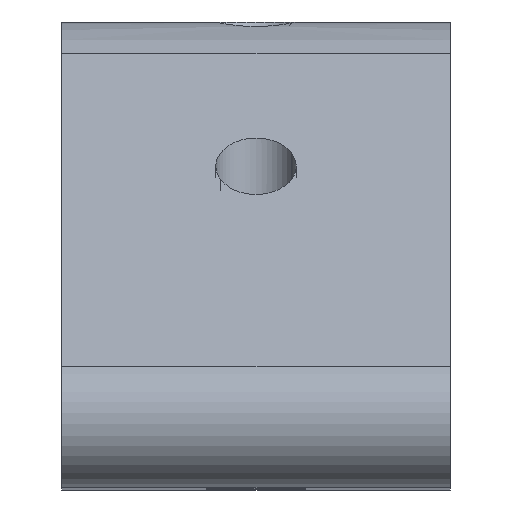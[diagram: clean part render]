
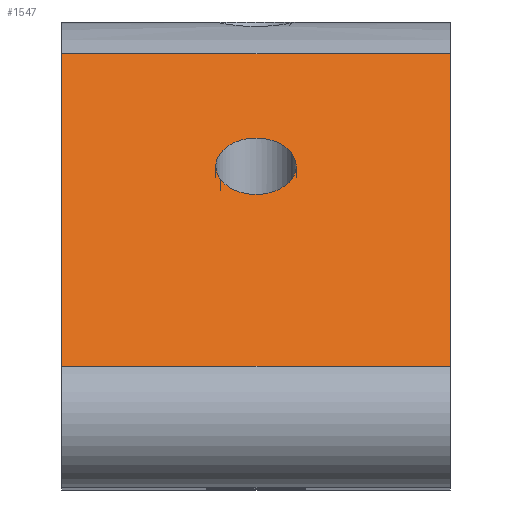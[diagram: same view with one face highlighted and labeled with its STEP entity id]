
A CAD part, top view. The second image highlights one B-rep face of the part: STEP entity #1547.
In plain terms, the highlighted planar face has unit normal (0, 0.818, 0.575).
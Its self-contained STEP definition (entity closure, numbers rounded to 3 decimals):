
#268=CARTESIAN_POINT('Line Origine',(0.,-8.763,201.124)) ;
#272=CARTESIAN_POINT('Vertex',(-10.,-8.763,201.124)) ;
#274=CARTESIAN_POINT('Vertex',(10.,-8.763,201.124)) ;
#299=CARTESIAN_POINT('Line Origine',(-10.,-0.699,189.649)) ;
#303=CARTESIAN_POINT('Vertex',(-10.,7.364,178.174)) ;
#807=CARTESIAN_POINT('Vertex',(10.,7.364,178.174)) ;
#810=CARTESIAN_POINT('Line Origine',(10.,-0.699,189.649)) ;
#1459=CARTESIAN_POINT('Axis2P3D Location',(0.,-8.763,201.124)) ;
#1464=CARTESIAN_POINT('Line Origine',(0.,7.364,178.174)) ;
#1476=CARTESIAN_POINT('Control Point',(1.814,2.251,185.45)) ;
#1477=CARTESIAN_POINT('Control Point',(1.809,2.258,185.44)) ;
#1478=CARTESIAN_POINT('Control Point',(1.804,2.265,185.431)) ;
#1479=CARTESIAN_POINT('Control Point',(1.803,2.266,185.429)) ;
#1480=CARTESIAN_POINT('Control Point',(1.742,2.341,185.322)) ;
#1481=CARTESIAN_POINT('Control Point',(1.672,2.415,185.218)) ;
#1482=CARTESIAN_POINT('Control Point',(1.6,2.481,185.123)) ;
#1483=CARTESIAN_POINT('Control Point',(1.394,2.642,184.894)) ;
#1484=CARTESIAN_POINT('Control Point',(1.14,2.778,184.7)) ;
#1485=CARTESIAN_POINT('Control Point',(0.968,2.85,184.597)) ;
#1486=CARTESIAN_POINT('Control Point',(0.631,2.954,184.45)) ;
#1487=CARTESIAN_POINT('Control Point',(0.26,3.003,184.38)) ;
#1488=CARTESIAN_POINT('Control Point',(0.092,3.013,184.365)) ;
#1489=CARTESIAN_POINT('Control Point',(-0.2,3.01,184.371)) ;
#1490=CARTESIAN_POINT('Control Point',(-0.483,2.971,184.425)) ;
#1491=CARTESIAN_POINT('Control Point',(-0.6,2.949,184.457)) ;
#1492=CARTESIAN_POINT('Control Point',(-0.829,2.892,184.538)) ;
#1493=CARTESIAN_POINT('Control Point',(-1.04,2.815,184.648)) ;
#1494=CARTESIAN_POINT('Control Point',(-1.141,2.771,184.711)) ;
#1495=CARTESIAN_POINT('Control Point',(-1.452,2.612,184.936)) ;
#1496=CARTESIAN_POINT('Control Point',(-1.694,2.416,185.216)) ;
#1497=CARTESIAN_POINT('Control Point',(-1.827,2.267,185.428)) ;
#1498=CARTESIAN_POINT('Control Point',(-2.034,1.936,185.899)) ;
#1499=CARTESIAN_POINT('Control Point',(-2.091,1.585,186.398)) ;
#1500=CARTESIAN_POINT('Control Point',(-2.08,1.399,186.663)) ;
#1501=CARTESIAN_POINT('Control Point',(-2.016,1.177,186.979)) ;
#1502=CARTESIAN_POINT('Control Point',(-1.891,0.966,187.279)) ;
#1503=CARTESIAN_POINT('Control Point',(-1.867,0.93,187.33)) ;
#1504=CARTESIAN_POINT('Control Point',(-1.841,0.894,187.381)) ;
#1505=CARTESIAN_POINT('Control Point',(-1.814,0.859,187.432)) ;
#1506=CARTESIAN_POINT('Vertex',(1.814,2.251,185.45)) ;
#1508=CARTESIAN_POINT('Vertex',(-1.814,0.859,187.432)) ;
#1512=CARTESIAN_POINT('Control Point',(-1.814,0.859,187.432)) ;
#1513=CARTESIAN_POINT('Control Point',(-1.809,0.852,187.441)) ;
#1514=CARTESIAN_POINT('Control Point',(-1.804,0.845,187.451)) ;
#1515=CARTESIAN_POINT('Control Point',(-1.803,0.845,187.452)) ;
#1516=CARTESIAN_POINT('Control Point',(-1.742,0.769,187.56)) ;
#1517=CARTESIAN_POINT('Control Point',(-1.672,0.696,187.664)) ;
#1518=CARTESIAN_POINT('Control Point',(-1.6,0.629,187.758)) ;
#1519=CARTESIAN_POINT('Control Point',(-1.394,0.469,187.987)) ;
#1520=CARTESIAN_POINT('Control Point',(-1.14,0.332,188.182)) ;
#1521=CARTESIAN_POINT('Control Point',(-0.968,0.26,188.284)) ;
#1522=CARTESIAN_POINT('Control Point',(-0.631,0.156,188.431)) ;
#1523=CARTESIAN_POINT('Control Point',(-0.26,0.107,188.502)) ;
#1524=CARTESIAN_POINT('Control Point',(-0.092,0.097,188.516)) ;
#1525=CARTESIAN_POINT('Control Point',(0.2,0.1,188.511)) ;
#1526=CARTESIAN_POINT('Control Point',(0.483,0.139,188.456)) ;
#1527=CARTESIAN_POINT('Control Point',(0.6,0.161,188.424)) ;
#1528=CARTESIAN_POINT('Control Point',(0.829,0.218,188.344)) ;
#1529=CARTESIAN_POINT('Control Point',(1.04,0.295,188.233)) ;
#1530=CARTESIAN_POINT('Control Point',(1.141,0.34,188.17)) ;
#1531=CARTESIAN_POINT('Control Point',(1.452,0.498,187.945)) ;
#1532=CARTESIAN_POINT('Control Point',(1.694,0.695,187.665)) ;
#1533=CARTESIAN_POINT('Control Point',(1.827,0.844,187.453)) ;
#1534=CARTESIAN_POINT('Control Point',(2.034,1.174,186.982)) ;
#1535=CARTESIAN_POINT('Control Point',(2.091,1.525,186.483)) ;
#1536=CARTESIAN_POINT('Control Point',(2.08,1.711,186.218)) ;
#1537=CARTESIAN_POINT('Control Point',(2.016,1.933,185.903)) ;
#1538=CARTESIAN_POINT('Control Point',(1.891,2.144,185.603)) ;
#1539=CARTESIAN_POINT('Control Point',(1.867,2.18,185.551)) ;
#1540=CARTESIAN_POINT('Control Point',(1.841,2.216,185.5)) ;
#1541=CARTESIAN_POINT('Control Point',(1.814,2.251,185.45)) ;
#270=VECTOR('Line Direction',#269,1.) ;
#301=VECTOR('Line Direction',#300,1.) ;
#812=VECTOR('Line Direction',#811,1.) ;
#1466=VECTOR('Line Direction',#1465,1.) ;
#269=DIRECTION('Vector Direction',(1.,0.,0.)) ;
#300=DIRECTION('Vector Direction',(0.,0.575,-0.818)) ;
#811=DIRECTION('Vector Direction',(0.,0.575,-0.818)) ;
#1460=DIRECTION('Axis2P3D Direction',(0.,-0.818,-0.575)) ;
#1461=DIRECTION('Axis2P3D XDirection',(0.,0.575,-0.818)) ;
#1465=DIRECTION('Vector Direction',(1.,0.,0.)) ;
#1462=AXIS2_PLACEMENT_3D('Plane Axis2P3D',#1459,#1460,#1461) ;
#271=LINE('Line',#268,#270) ;
#302=LINE('Line',#299,#301) ;
#813=LINE('Line',#810,#812) ;
#1467=LINE('Line',#1464,#1466) ;
#1463=PLANE('',#1462) ;
#1546=FACE_BOUND('',#1543,.T.) ;
#276=EDGE_CURVE('',#273,#275,#271,.T.) ;
#305=EDGE_CURVE('',#304,#273,#302,.F.) ;
#814=EDGE_CURVE('',#808,#275,#813,.F.) ;
#1468=EDGE_CURVE('',#304,#808,#1467,.T.) ;
#1510=EDGE_CURVE('',#1507,#1509,#1475,.T.) ;
#1542=EDGE_CURVE('',#1509,#1507,#1511,.T.) ;
#1470=ORIENTED_EDGE('',*,*,#1468,.F.) ;
#1471=ORIENTED_EDGE('',*,*,#305,.T.) ;
#1472=ORIENTED_EDGE('',*,*,#276,.T.) ;
#1473=ORIENTED_EDGE('',*,*,#814,.F.) ;
#1544=ORIENTED_EDGE('',*,*,#1510,.F.) ;
#1545=ORIENTED_EDGE('',*,*,#1542,.F.) ;
#1469=EDGE_LOOP('',(#1470,#1471,#1472,#1473)) ;
#1543=EDGE_LOOP('',(#1544,#1545)) ;
#273=VERTEX_POINT('',#272) ;
#275=VERTEX_POINT('',#274) ;
#304=VERTEX_POINT('',#303) ;
#808=VERTEX_POINT('',#807) ;
#1507=VERTEX_POINT('',#1506) ;
#1509=VERTEX_POINT('',#1508) ;
#1547=ADVANCED_FACE('Brake_pedal',(#1474,#1546),#1463,.F.) ;
#1475=B_SPLINE_CURVE_WITH_KNOTS('',5,(#1476,#1477,#1478,#1479,#1480,#1481,#1482,#1483,#1484,#1485,#1486,#1487,#1488,#1489,#1490,#1491,#1492,#1493,#1494,#1495,#1496,#1497,#1498,#1499,#1500,#1501,#1502,#1503,#1504,#1505),.UNSPECIFIED.,.F.,.U.,(6,3,3,3,3,3,3,3,3,6),(0.,0.064,1.025,2.512,3.697,4.561,5.457,7.488,9.751,10.228),.UNSPECIFIED.) ;
#1511=B_SPLINE_CURVE_WITH_KNOTS('',5,(#1512,#1513,#1514,#1515,#1516,#1517,#1518,#1519,#1520,#1521,#1522,#1523,#1524,#1525,#1526,#1527,#1528,#1529,#1530,#1531,#1532,#1533,#1534,#1535,#1536,#1537,#1538,#1539,#1540,#1541),.UNSPECIFIED.,.F.,.U.,(6,3,3,3,3,3,3,3,3,6),(0.,0.064,1.025,2.512,3.697,4.561,5.457,7.488,9.751,10.228),.UNSPECIFIED.) ;
#1474=FACE_OUTER_BOUND('',#1469,.T.) ;
